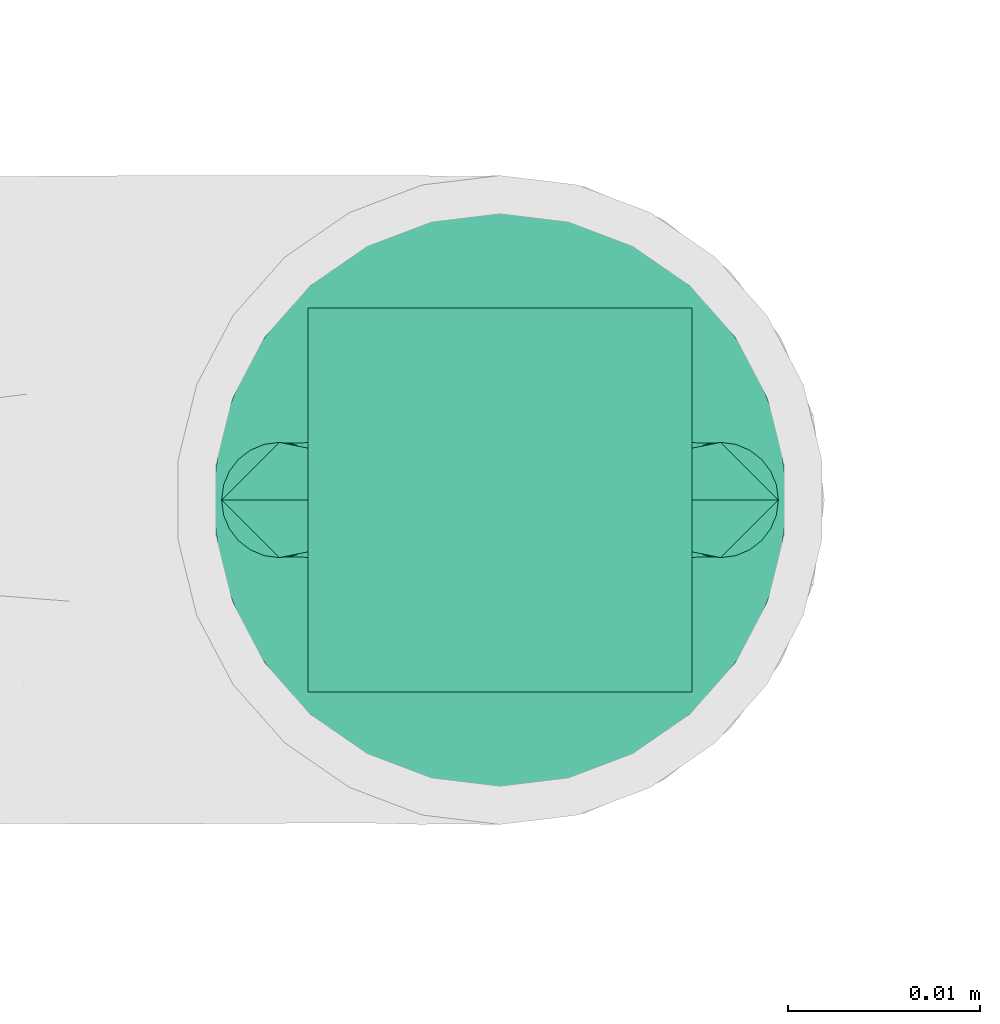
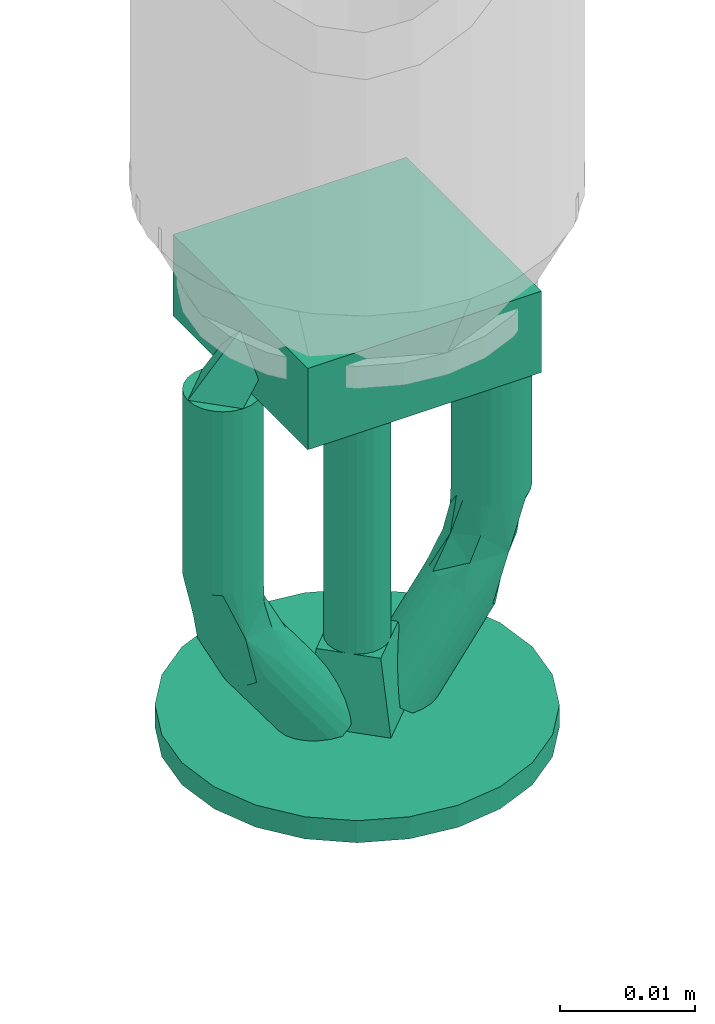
# One storey, part 10 of 17: 1 flow terminal.
"""IFC2X3 building model written with IfcOpenShell, lengths in millimetres."""

from ifc_helpers import new_model, entity, si_unit, converted_unit, derived_unit, direction, frame, origin_with_axes, place, context, subcontext, project, spatial, open_shell, surface_model, source, transform, mapped, type_object, element, save


model = new_model("IFC2X3")

# Units and contexts
model_context = context("Model", 3, precision=0.01, world=frame((0.0, 4.29681676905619e-09, 0.0)), true_north=direction((4.01073788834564e-13, 1.0)))
plan_context = context("Plan", 3, precision=0.01, world=frame((0.0, 4.29681676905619e-09, 0.0)), true_north=direction((4.01073788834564e-13, 1.0)))
body_context = subcontext(model_context, "Body", "Model", "MODEL_VIEW")
ifc_project = project(units=[converted_unit("PLANEANGLEUNIT", "DEGREE", entity("IfcPositiveLengthMeasure", 0.0174532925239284), si_unit("PLANEANGLEUNIT", "RADIAN"), dimensions=[0, 0, 0, 0, 0, 0, 0]), si_unit("AREAUNIT", "SQUARE_METRE"), si_unit("LENGTHUNIT", "METRE", prefix="MILLI"), si_unit("MASSUNIT", "GRAM", prefix="KILO"), si_unit("POWERUNIT", "WATT"), si_unit("PRESSUREUNIT", "PASCAL", prefix="KILO"), si_unit("FORCEUNIT", "NEWTON", prefix="KILO"), si_unit("ELECTRICVOLTAGEUNIT", "VOLT"), si_unit("ELECTRICCURRENTUNIT", "AMPERE"), si_unit("THERMODYNAMICTEMPERATUREUNIT", "DEGREE_CELSIUS"), si_unit("TIMEUNIT", "SECOND"), si_unit("VOLUMEUNIT", "CUBIC_METRE"), derived_unit("LINEARVELOCITYUNIT", [(si_unit("LENGTHUNIT", "METRE"), 1), (si_unit("TIMEUNIT", "SECOND"), -1)]), derived_unit("VOLUMETRICFLOWRATEUNIT", [(si_unit("VOLUMEUNIT", "CUBIC_METRE"), 1), (si_unit("TIMEUNIT", "SECOND"), -1)]), derived_unit("THERMALTRANSMITTANCEUNIT", [(si_unit("POWERUNIT", "WATT"), 1), (si_unit("THERMODYNAMICTEMPERATUREUNIT", "KELVIN"), -1), (si_unit("AREAUNIT", "SQUARE_METRE"), -1)]), derived_unit("SOUNDPRESSUREUNIT", [(si_unit("PRESSUREUNIT", "PASCAL"), 1)])], contexts=[model_context, plan_context])

# Site, building, storey
site_placement = place(None, frame((0.0, -4.29681676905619e-09, 0.0), z_axis=(0.0, 0.0, 1.0), x_axis=(1.0, 0.0, 0.0)))
site = spatial("IfcSite", under=ifc_project, at=site_placement, CompositionType="ELEMENT")
building_placement = place(site_placement, frame((0.0, 4.29681676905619e-09, 0.0), z_axis=(0.0, 0.0, 1.0), x_axis=(1.0, 0.0, 0.0)))
building = spatial("IfcBuilding", under=site, at=building_placement, Name="mc-building", CompositionType="ELEMENT")
storey_placement = place(building_placement, frame((0.0, 0.0, 204000.0), z_axis=(0.0, 0.0, 1.0), x_axis=(1.0, 0.0, 0.0)))
storey = spatial("IfcBuildingStorey", under=building, at=storey_placement, Name="Nivå D", CompositionType="ELEMENT", Elevation=204000.0)

# Flow terminal
fire_suppression_terminal_type = type_object("IfcFireSuppressionTerminalType", Name="BLP-K115-141C-STD", PredefinedType="NOTDEFINED")
shared_shape = source(origin_with_axes(), body_context, "Body", "SurfaceModel", [
    surface_model("IfcShellBasedSurfaceModel", [(10.0, 10.0, 7.36842), (-10.0, 10.0, 7.36842), (-10.0, -10.0, 7.36842), (10.0, -10.0, 7.36842), (10.0, -10.0, 0.0), (-10.0, -10.0, 0.0), (-10.0, 10.0, 0.0), (10.0, 10.0, 0.0), (3.88229, -14.48889, 42.0), (-3.88229, -14.48889, 42.0), (0.0, -15.0, 42.0), (14.48889, -3.88229, 42.0), (7.5, -12.99038, 42.0), (12.99038, -7.5, 42.0), (10.6066, -10.6066, 42.0), (-10.6066, -10.6066, 42.0), (-7.5, -12.99038, 42.0), (-14.48889, -3.88229, 42.0), (-12.99038, -7.5, 42.0), (-12.99038, 7.5, 42.0), (-15.0, 0.0, 42.0), (14.48889, 3.88229, 42.0), (3.88229, 14.48889, 42.0), (12.99038, 7.5, 42.0), (10.6066, 10.6066, 42.0), (7.5, 12.99038, 42.0), (-7.5, 12.99038, 42.0), (-10.6066, 10.6066, 42.0), (-14.48889, 3.88229, 42.0), (0.0, 15.0, 42.0), (-3.88229, 14.48889, 42.0), (15.0, 0.0, 42.0), (10.6066, 10.6066, 40.0), (0.0, 15.0, 40.0), (3.88229, 14.48889, 40.0), (7.5, 12.99038, 40.0), (12.99038, 7.5, 40.0), (14.48889, 3.88229, 40.0), (-15.0, 0.0, 40.0), (-7.5, 12.99038, 40.0), (-12.99038, 7.5, 40.0), (-10.6066, 10.6066, 40.0), (-3.88229, 14.48889, 40.0), (-14.48889, 3.88229, 40.0), (15.0, 0.0, 40.0), (14.48889, -3.88229, 40.0), (-3.88229, -14.48889, 40.0), (3.88229, -14.48889, 40.0), (12.99038, -7.5, 40.0), (7.5, -12.99038, 40.0), (10.6066, -10.6066, 40.0), (-14.48889, -3.88229, 40.0), (-10.6066, -10.6066, 40.0), (-12.99038, -7.5, 40.0), (-7.5, -12.99038, 40.0), (0.0, -15.0, 40.0), (0.0, -2.5, 33.68421), (0.64705, -2.41481, 33.68421), (1.25, -2.16506, 33.68421), (-1.25, -2.16506, 33.68421), (2.16506, -1.25, 33.68421), (1.76777, -1.76777, 33.68421), (-1.25, 2.16506, 33.68421), (-2.16506, -1.25, 33.68421), (-1.76777, -1.76777, 33.68421), (-0.64705, -2.41481, 33.68421), (-2.41481, -0.64705, 33.68421), (-2.5, 0.0, 33.68421), (-2.41481, 0.64705, 33.68421), (2.41481, -0.64705, 33.68421), (1.25, 2.16506, 33.68421), (2.5, 0.0, 33.68421), (2.41481, 0.64705, 33.68421), (1.76777, 1.76777, 33.68421), (2.16506, 1.25, 33.68421), (0.64705, 2.41481, 33.68421), (-1.76777, 1.76777, 33.68421), (-2.16506, 1.25, 33.68421), (0.0, 2.5, 33.68421), (-0.64705, 2.41481, 33.68421), (0.0, 2.5, 7.36842), (0.64705, 2.41481, 7.36842), (1.25, 2.16506, 7.36842), (-1.25, 2.16506, 7.36842), (1.76777, 1.76777, 7.36842), (2.16506, 1.25, 7.36842), (2.41481, 0.64705, 7.36842), (-2.41481, 0.64705, 7.36842), (-1.76777, 1.76777, 7.36842), (-0.64705, 2.41481, 7.36842), (-2.16506, 1.25, 7.36842), (-2.5, 0.0, 7.36842), (2.5, 0.0, 7.36842), (2.41481, -0.64705, 7.36842), (2.16506, -1.25, 7.36842), (-1.25, -2.16506, 7.36842), (1.25, -2.16506, 7.36842), (1.76777, -1.76777, 7.36842), (0.0, -2.5, 7.36842), (0.64705, -2.41481, 7.36842), (-2.16506, -1.25, 7.36842), (-1.76777, -1.76777, 7.36842), (-2.41481, -0.64705, 7.36842), (-0.64705, -2.41481, 7.36842), (0.0, -5.0, 40.0), (5.0, 0.0, 40.0), (-5.0, 0.0, 40.0), (0.0, 5.0, 40.0), (3.5, 0.0, 33.68421), (0.0, -3.5, 33.68421), (0.0, 3.5, 33.68421), (-3.5, 0.0, 33.68421), (13.0, -2.59808, 7.36842), (12.27646, -2.89778, 7.36842), (11.5, -3.0, 7.36842), (10.72354, -2.89778, 7.36842), (14.09808, -1.5, 7.36842), (13.62132, -2.12132, 7.36842), (14.39778, -0.77646, 7.36842), (10.0, -2.59808, 7.36842), (9.37868, -2.12132, 7.36842), (8.60222, -0.77646, 7.36842), (8.90192, -1.5, 7.36842), (8.5, 0.0, 7.36842), (8.60222, 0.77646, 7.36842), (14.5, 0.0, 7.36842), (14.09808, 1.5, 7.36842), (14.39778, 0.77646, 7.36842), (13.0, 2.59808, 7.36842), (13.62132, 2.12132, 7.36842), (12.27646, 2.89778, 7.36842), (8.90192, 1.5, 7.36842), (9.37868, 2.12132, 7.36842), (10.0, 2.59808, 7.36842), (10.72354, 2.89778, 7.36842), (11.5, 3.0, 7.36842), (8.60222, 0.77646, 21.40351), (8.5, 0.0, 21.40351), (8.90192, 1.5, 21.40351), (9.37868, 2.12132, 21.40351), (10.0, 2.59808, 21.40351), (10.72354, 2.89778, 21.40351), (11.5, 3.0, 21.40351), (13.0, 2.59808, 21.40351), (12.27646, 2.89778, 21.40351), (13.62132, 2.12132, 21.40351), (14.09808, 1.5, 21.40351), (14.39778, 0.77646, 21.40351), (14.5, 0.0, 21.40351), (14.39778, -0.77646, 21.40351), (14.09808, -1.5, 21.40351), (13.62132, -2.12132, 21.40351), (13.0, -2.59808, 21.40351), (12.27646, -2.89778, 21.40351), (11.5, -3.0, 21.40351), (10.0, -2.59808, 21.40351), (10.72354, -2.89778, 21.40351), (9.37868, -2.12132, 21.40351), (8.90192, -1.5, 21.40351), (8.60222, -0.77646, 21.40351), (8.60222, 0.77646, 24.01797), (8.5, 0.0, 24.01797), (8.90192, 1.5, 24.01797), (9.37868, 2.12132, 24.01797), (10.0, 2.59808, 24.01797), (10.72354, 2.89778, 24.01797), (11.5, 3.0, 24.01797), (13.0, 2.59808, 24.01797), (12.27646, 2.89778, 24.01797), (13.62132, 2.12132, 24.01797), (14.09808, 1.5, 24.01797), (14.39778, 0.77646, 24.01797), (14.5, 0.0, 24.01797), (14.39778, -0.77646, 24.01797), (14.09808, -1.5, 24.01797), (13.62132, -2.12132, 24.01797), (13.0, -2.59808, 24.01797), (12.27646, -2.89778, 24.01797), (11.5, -3.0, 24.01797), (10.0, -2.59808, 24.01797), (10.72354, -2.89778, 24.01797), (9.37868, -2.12132, 24.01797), (8.90192, -1.5, 24.01797), (8.60222, -0.77646, 24.01797), (14.03116, 0.0, 26.95469), (8.89443, 3.0, 31.97044), (11.26864, 2.96638, 28.30794), (8.26852, 2.89778, 31.51096), (13.68288, 0.0, 29.13626), (9.23197, 2.26965, 26.65145), (7.98113, 0.0, 27.26812), (8.39468, 2.17743, 28.77318), (6.47609, 0.0, 30.19515), (6.55849, 0.77646, 30.25565), (6.80009, 1.5, 30.433), (7.1844, 2.12132, 30.71512), (11.23037, 0.77646, 33.68523), (11.31277, 0.0, 33.74572), (12.67267, 0.0, 31.10095), (7.68526, 2.59808, 31.0828), (9.52034, 2.89778, 32.42991), (10.1036, 2.59808, 32.85808), (10.60445, 2.12132, 33.22575), (10.98877, 1.5, 33.50787), (11.26864, -2.96638, 28.30794), (9.20533, -2.17689, 26.29582), (8.63781, -2.27879, 28.50134), (10.1036, -2.59808, 32.85808), (9.52034, -2.89778, 32.42991), (8.89443, -3.0, 31.97044), (10.98877, -1.5, 33.50787), (10.60445, -2.12132, 33.22575), (11.23037, -0.77646, 33.68523), (6.55849, -0.77646, 30.25565), (8.26852, -2.89778, 31.51096), (7.68526, -2.59808, 31.0828), (7.1844, -2.12132, 30.71512), (6.80009, -1.5, 30.433), (3.0, -3.0, 40.0), (3.62591, -2.89778, 40.45948), (4.20917, -2.59808, 40.88764), (5.09434, -1.5, 41.53744), (1.28997, -2.12132, 38.74469), (4.71003, -2.12132, 41.25532), (1.79083, 2.59808, 39.11236), (0.90566, -1.5, 38.46256), (1.79083, -2.59808, 39.11236), (2.37409, -2.89778, 39.54052), (0.58166, 0.0, 38.22472), (0.66406, -0.77646, 38.28521), (1.28997, 2.12132, 38.74469), (5.33594, -0.77646, 41.71479), (4.71003, 2.12132, 41.25532), (5.33594, 0.77646, 41.71479), (5.09434, 1.5, 41.53744), (4.20917, 2.59808, 40.88764), (3.62591, 2.89778, 40.45948), (3.0, 3.0, 40.0), (0.66406, 0.77646, 38.28521), (0.90566, 1.5, 38.46256), (2.37409, 2.89778, 39.54052), (5.41834, 0.0, 41.77528), (-10.0, -2.59808, 7.36842), (-10.72354, -2.89778, 7.36842), (-11.5, -3.0, 7.36842), (-12.27646, -2.89778, 7.36842), (-8.60222, -0.77646, 7.36842), (-8.90192, -1.5, 7.36842), (-9.37868, -2.12132, 7.36842), (-13.0, -2.59808, 7.36842), (-13.62132, -2.12132, 7.36842), (-14.39778, -0.77646, 7.36842), (-14.09808, -1.5, 7.36842), (-14.5, 0.0, 7.36842), (-10.0, 2.59808, 7.36842), (-8.90192, 1.5, 7.36842), (-8.60222, 0.77646, 7.36842), (-14.39778, 0.77646, 7.36842), (-9.37868, 2.12132, 7.36842), (-10.72354, 2.89778, 7.36842), (-14.09808, 1.5, 7.36842), (-13.62132, 2.12132, 7.36842), (-13.0, 2.59808, 7.36842), (-12.27646, 2.89778, 7.36842), (-11.5, 3.0, 7.36842), (-8.5, 0.0, 7.36842), (-14.39778, 0.77646, 21.40351), (-14.5, 0.0, 21.40351), (-14.09808, 1.5, 21.40351), (-13.62132, 2.12132, 21.40351), (-13.0, 2.59808, 21.40351), (-12.27646, 2.89778, 21.40351), (-11.5, 3.0, 21.40351), (-10.0, 2.59808, 21.40351), (-10.72354, 2.89778, 21.40351), (-9.37868, 2.12132, 21.40351), (-8.90192, 1.5, 21.40351), (-8.60222, 0.77646, 21.40351), (-8.5, 0.0, 21.40351), (-8.60222, -0.77646, 21.40351), (-8.90192, -1.5, 21.40351), (-9.37868, -2.12132, 21.40351), (-10.0, -2.59808, 21.40351), (-10.72354, -2.89778, 21.40351), (-11.5, -3.0, 21.40351), (-13.0, -2.59808, 21.40351), (-12.27646, -2.89778, 21.40351), (-13.62132, -2.12132, 21.40351), (-14.09808, -1.5, 21.40351), (-14.39778, -0.77646, 21.40351), (-14.39778, 0.77646, 24.01797), (-14.5, 0.0, 24.01797), (-14.09808, 1.5, 24.01797), (-13.62132, 2.12132, 24.01797), (-13.0, 2.59808, 24.01797), (-12.27646, 2.89778, 24.01797), (-11.5, 3.0, 24.01797), (-10.0, 2.59808, 24.01797), (-10.72354, 2.89778, 24.01797), (-9.37868, 2.12132, 24.01797), (-8.90192, 1.5, 24.01797), (-8.60222, 0.77646, 24.01797), (-8.5, 0.0, 24.01797), (-8.60222, -0.77646, 24.01797), (-8.90192, -1.5, 24.01797), (-9.37868, -2.12132, 24.01797), (-10.0, -2.59808, 24.01797), (-10.72354, -2.89778, 24.01797), (-11.5, -3.0, 24.01797), (-13.0, -2.59808, 24.01797), (-12.27646, -2.89778, 24.01797), (-13.62132, -2.12132, 24.01797), (-14.09808, -1.5, 24.01797), (-14.39778, -0.77646, 24.01797), (-14.03116, 0.0, 26.95469), (-11.26864, 2.96638, 28.30794), (-9.20533, 2.17689, 26.29582), (-7.98113, 0.0, 27.26812), (-13.68288, 0.0, 29.13626), (-12.67267, 0.0, 31.10095), (-8.63781, 2.27879, 28.50134), (-10.1036, 2.59808, 32.85808), (-9.52034, 2.89778, 32.42991), (-8.89443, 3.0, 31.97044), (-10.98877, 1.5, 33.50787), (-10.60445, 2.12132, 33.22575), (-11.23037, 0.77646, 33.68523), (-11.31277, 0.0, 33.74572), (-6.55849, 0.77646, 30.25565), (-6.47609, 0.0, 30.19515), (-8.26852, 2.89778, 31.51096), (-7.68526, 2.59808, 31.0828), (-7.1844, 2.12132, 30.71512), (-6.80009, 1.5, 30.433), (-8.89443, -3.0, 31.97044), (-11.26864, -2.96638, 28.30794), (-8.26852, -2.89778, 31.51096), (-9.23197, -2.26965, 26.65145), (-8.39468, -2.17743, 28.77318), (-6.55849, -0.77646, 30.25565), (-6.80009, -1.5, 30.433), (-7.1844, -2.12132, 30.71512), (-11.23037, -0.77646, 33.68523), (-7.68526, -2.59808, 31.0828), (-9.52034, -2.89778, 32.42991), (-10.1036, -2.59808, 32.85808), (-10.60445, -2.12132, 33.22575), (-10.98877, -1.5, 33.50787), (-3.62591, -2.89778, 40.45948), (-3.0, -3.0, 40.0), (-2.37409, -2.89778, 39.54052), (-1.79083, -2.59808, 39.11236), (-1.28997, -2.12132, 38.74469), (-0.90566, -1.5, 38.46256), (-0.66406, -0.77646, 38.28521), (-4.71003, -2.12132, 41.25532), (-4.20917, -2.59808, 40.88764), (-5.09434, -1.5, 41.53744), (-5.41834, 0.0, 41.77528), (-5.33594, -0.77646, 41.71479), (-4.20917, 2.59808, 40.88764), (-5.33594, 0.77646, 41.71479), (-0.58166, 0.0, 38.22472), (-0.66406, 0.77646, 38.28521), (-0.90566, 1.5, 38.46256), (-1.28997, 2.12132, 38.74469), (-1.79083, 2.59808, 39.11236), (-2.37409, 2.89778, 39.54052), (-3.0, 3.0, 40.0), (-4.71003, 2.12132, 41.25532), (-5.09434, 1.5, 41.53744), (-3.62591, 2.89778, 40.45948), (-6.5, 2.0, 1.0), (-4.5, 0.0, 1.0), (-6.5, -2.0, 1.0), (-8.5, 0.0, 1.0), (-7.5, 1.0, 1.0), (-13.0, 1.5, 7.36842), (-10.16667, 1.66667, 7.36842), (-5.5, 1.0, 1.0), (-5.5, -1.0, 1.0), (-10.0, -1.5, 7.36842), (-12.83333, -1.66667, 7.36842), (-7.5, -1.0, 1.0), (4.5, 0.0, 1.0), (6.5, 2.0, 1.0), (8.5, 0.0, 1.0), (6.5, -2.0, 1.0), (5.5, -1.0, 1.0), (12.83333, -1.66667, 7.36842), (10.16667, -1.66667, 7.36842), (7.5, -1.0, 1.0), (7.5, 1.0, 1.0), (10.16667, 1.66667, 7.36842), (12.83333, 1.66667, 7.36842), (5.5, 1.0, 1.0)], [open_shell([[[0, 1, 2]], [[2, 3, 0]], [[4, 5, 6]], [[6, 7, 4]], [[2, 1, 6]], [[6, 5, 2]], [[3, 2, 5]], [[5, 4, 3]], [[0, 3, 4]], [[4, 7, 0]], [[1, 0, 7]], [[7, 6, 1]], [[8, 9, 10]], [[11, 8, 12]], [[13, 11, 12]], [[13, 12, 14]], [[9, 8, 11]], [[9, 15, 16]], [[15, 9, 17]], [[15, 17, 18]], [[9, 11, 17]], [[17, 19, 20]], [[17, 11, 19]], [[19, 11, 21]], [[22, 21, 23]], [[24, 25, 22]], [[24, 22, 23]], [[19, 21, 22]], [[19, 26, 27]], [[28, 20, 19]], [[26, 29, 30]], [[29, 26, 19]], [[22, 29, 19]], [[11, 31, 21]], [[32, 33, 34]], [[32, 34, 35]], [[32, 36, 37]], [[33, 32, 38]], [[38, 32, 37]], [[39, 40, 41]], [[39, 42, 33]], [[40, 38, 43]], [[39, 33, 40]], [[33, 38, 40]], [[37, 44, 38]], [[45, 46, 44]], [[47, 45, 48]], [[49, 47, 48]], [[49, 48, 50]], [[46, 45, 47]], [[51, 52, 53]], [[52, 51, 46]], [[52, 46, 54]], [[51, 44, 46]], [[47, 55, 46]], [[44, 51, 38]], [[51, 17, 38]], [[53, 18, 51]], [[16, 52, 54]], [[53, 52, 15]], [[9, 54, 46]], [[51, 18, 17]], [[17, 20, 38]], [[9, 16, 54]], [[15, 52, 16]], [[15, 18, 53]], [[10, 9, 46]], [[46, 55, 10]], [[47, 8, 55]], [[49, 12, 47]], [[13, 50, 48]], [[49, 50, 14]], [[11, 48, 45]], [[49, 14, 12]], [[12, 8, 47]], [[31, 11, 45]], [[13, 48, 11]], [[13, 14, 50]], [[44, 31, 45]], [[55, 8, 10]], [[37, 21, 44]], [[36, 23, 37]], [[25, 32, 35]], [[36, 32, 24]], [[22, 35, 34]], [[37, 23, 21]], [[21, 31, 44]], [[22, 25, 35]], [[24, 32, 25]], [[24, 23, 36]], [[29, 22, 34]], [[34, 33, 29]], [[42, 30, 33]], [[39, 26, 42]], [[19, 41, 40]], [[39, 41, 27]], [[28, 40, 43]], [[39, 27, 26]], [[26, 30, 42]], [[20, 28, 43]], [[19, 40, 28]], [[19, 27, 41]], [[38, 20, 43]], [[33, 30, 29]], [[56, 57, 58]], [[59, 56, 58]], [[58, 60, 59]], [[60, 58, 61]], [[60, 62, 59]], [[59, 63, 64]], [[59, 65, 56]], [[59, 66, 63]], [[66, 59, 67]], [[59, 68, 67]], [[62, 60, 69]], [[70, 71, 72]], [[73, 72, 74]], [[62, 69, 70]], [[70, 72, 73]], [[62, 70, 75]], [[68, 76, 77]], [[76, 68, 62]], [[62, 78, 79]], [[68, 59, 62]], [[75, 78, 62]], [[70, 69, 71]], [[80, 81, 82]], [[83, 80, 82]], [[84, 85, 86]], [[83, 82, 84]], [[83, 84, 86]], [[83, 87, 88]], [[83, 89, 80]], [[88, 87, 90]], [[87, 83, 91]], [[86, 91, 83]], [[86, 92, 91]], [[92, 93, 94]], [[95, 92, 94]], [[95, 94, 96]], [[96, 94, 97]], [[98, 96, 99]], [[100, 95, 101]], [[95, 100, 102]], [[95, 98, 103]], [[102, 91, 95]], [[96, 98, 95]], [[95, 91, 92]], [[102, 66, 91]], [[100, 63, 102]], [[59, 101, 95]], [[100, 101, 64]], [[65, 95, 103]], [[102, 63, 66]], [[66, 67, 91]], [[65, 59, 95]], [[64, 101, 59]], [[64, 63, 100]], [[56, 65, 103]], [[103, 98, 56]], [[99, 57, 98]], [[96, 58, 99]], [[60, 97, 94]], [[96, 97, 61]], [[69, 94, 93]], [[96, 61, 58]], [[58, 57, 99]], [[71, 69, 93]], [[60, 94, 69]], [[60, 61, 97]], [[92, 71, 93]], [[98, 57, 56]], [[86, 72, 92]], [[85, 74, 86]], [[70, 84, 82]], [[85, 84, 73]], [[75, 82, 81]], [[86, 74, 72]], [[72, 71, 92]], [[75, 70, 82]], [[73, 84, 70]], [[73, 74, 85]], [[78, 75, 81]], [[81, 80, 78]], [[89, 79, 80]], [[83, 62, 89]], [[77, 88, 90]], [[83, 88, 76]], [[68, 90, 87]], [[83, 76, 62]], [[62, 79, 89]], [[67, 68, 87]], [[77, 90, 68]], [[77, 76, 88]], [[91, 67, 87]], [[80, 79, 78]], [[104, 105, 106]], [[107, 106, 105]], [[108, 109, 110]], [[111, 110, 109]], [[106, 111, 104]], [[104, 111, 109]], [[109, 108, 105]], [[109, 105, 104]], [[105, 108, 107]], [[107, 108, 110]], [[110, 111, 106]], [[110, 106, 107]], [[112, 113, 114]], [[112, 114, 115]], [[116, 112, 115]], [[117, 112, 116]], [[118, 116, 119]], [[120, 121, 119]], [[116, 115, 119]], [[122, 121, 120]], [[121, 118, 119]], [[121, 123, 124]], [[125, 118, 121]], [[126, 127, 125]], [[126, 125, 124]], [[124, 128, 126]], [[129, 126, 128]], [[128, 124, 130]], [[131, 132, 124]], [[133, 124, 132]], [[134, 135, 133]], [[124, 133, 135]], [[135, 130, 124]], [[121, 124, 125]], [[136, 123, 137]], [[138, 124, 136]], [[132, 139, 140]], [[138, 139, 131]], [[133, 140, 141]], [[138, 131, 124]], [[124, 123, 136]], [[134, 142, 135]], [[134, 133, 141]], [[132, 140, 133]], [[132, 131, 139]], [[142, 134, 141]], [[143, 130, 144]], [[145, 128, 143]], [[126, 146, 147]], [[145, 146, 129]], [[127, 147, 148]], [[143, 128, 130]], [[130, 135, 144]], [[127, 126, 147]], [[129, 146, 126]], [[129, 128, 145]], [[125, 127, 148]], [[144, 135, 142]], [[149, 125, 148]], [[150, 118, 149]], [[117, 151, 152]], [[150, 151, 116]], [[112, 152, 153]], [[150, 116, 118]], [[118, 125, 149]], [[113, 154, 114]], [[113, 112, 153]], [[117, 152, 112]], [[117, 116, 151]], [[154, 113, 153]], [[155, 115, 156]], [[157, 119, 155]], [[122, 158, 159]], [[157, 158, 120]], [[121, 159, 137]], [[155, 119, 115]], [[115, 114, 156]], [[121, 122, 159]], [[120, 158, 122]], [[120, 119, 157]], [[123, 121, 137]], [[156, 114, 154]], [[160, 137, 161]], [[162, 136, 160]], [[139, 163, 164]], [[162, 163, 138]], [[140, 164, 165]], [[162, 138, 136]], [[136, 137, 160]], [[141, 166, 142]], [[141, 140, 165]], [[139, 164, 140]], [[139, 138, 163]], [[166, 141, 165]], [[167, 144, 168]], [[169, 143, 167]], [[146, 170, 171]], [[169, 170, 145]], [[147, 171, 172]], [[167, 143, 144]], [[144, 142, 168]], [[147, 146, 171]], [[145, 170, 146]], [[145, 143, 169]], [[148, 147, 172]], [[168, 142, 166]], [[173, 148, 172]], [[174, 149, 173]], [[151, 175, 176]], [[174, 175, 150]], [[152, 176, 177]], [[174, 150, 149]], [[149, 148, 173]], [[153, 178, 154]], [[153, 152, 177]], [[151, 176, 152]], [[151, 150, 175]], [[178, 153, 177]], [[179, 156, 180]], [[181, 155, 179]], [[158, 182, 183]], [[181, 182, 157]], [[159, 183, 161]], [[179, 155, 156]], [[156, 154, 180]], [[159, 158, 183]], [[157, 182, 158]], [[157, 155, 181]], [[137, 159, 161]], [[180, 154, 178]], [[170, 184, 171]], [[185, 186, 187]], [[188, 184, 186]], [[165, 186, 166]], [[189, 160, 190]], [[163, 162, 189]], [[190, 191, 189]], [[160, 189, 162]], [[189, 186, 165]], [[164, 163, 189]], [[184, 172, 171]], [[170, 169, 184]], [[184, 167, 186]], [[184, 169, 167]], [[168, 186, 167]], [[166, 186, 168]], [[160, 161, 190]], [[192, 193, 191]], [[193, 194, 191]], [[195, 191, 194]], [[191, 190, 192]], [[191, 187, 186]], [[196, 197, 198]], [[191, 199, 187]], [[200, 186, 185]], [[189, 165, 164]], [[191, 195, 199]], [[201, 202, 198]], [[200, 201, 186]], [[198, 203, 196]], [[198, 188, 186]], [[198, 202, 203]], [[201, 198, 186]], [[189, 191, 186]], [[174, 184, 175]], [[176, 175, 184]], [[204, 176, 184]], [[178, 177, 204]], [[204, 177, 176]], [[173, 184, 174]], [[205, 190, 161]], [[188, 198, 204]], [[205, 204, 206]], [[205, 179, 180]], [[205, 181, 179]], [[182, 205, 183]], [[161, 183, 205]], [[181, 205, 182]], [[180, 204, 205]], [[173, 172, 184]], [[188, 204, 184]], [[204, 198, 207]], [[207, 208, 204]], [[190, 205, 206]], [[208, 209, 204]], [[198, 210, 211]], [[198, 211, 207]], [[212, 198, 197]], [[213, 192, 190]], [[213, 190, 206]], [[210, 198, 212]], [[214, 204, 209]], [[214, 215, 206]], [[206, 216, 217]], [[206, 204, 214]], [[216, 206, 215]], [[213, 206, 217]], [[178, 204, 180]], [[218, 219, 220]], [[218, 220, 221]], [[218, 221, 222]], [[221, 220, 223]], [[221, 224, 225]], [[218, 226, 227]], [[218, 222, 226]], [[225, 228, 229]], [[222, 221, 225]], [[225, 230, 228]], [[221, 231, 232]], [[231, 233, 232]], [[232, 233, 234]], [[232, 235, 236]], [[232, 224, 221]], [[237, 232, 236]], [[238, 230, 239]], [[238, 228, 230]], [[232, 240, 224]], [[225, 224, 230]], [[237, 240, 232]], [[241, 233, 231]], [[238, 192, 228]], [[239, 193, 238]], [[195, 230, 224]], [[239, 230, 194]], [[199, 224, 240]], [[239, 194, 193]], [[193, 192, 238]], [[187, 237, 185]], [[187, 199, 240]], [[195, 224, 199]], [[195, 194, 230]], [[237, 187, 240]], [[235, 200, 236]], [[232, 201, 235]], [[203, 234, 233]], [[232, 234, 202]], [[196, 233, 241]], [[235, 201, 200]], [[200, 185, 236]], [[196, 203, 233]], [[202, 234, 203]], [[202, 201, 232]], [[197, 196, 241]], [[236, 185, 237]], [[231, 197, 241]], [[221, 212, 231]], [[211, 223, 220]], [[221, 223, 210]], [[207, 220, 219]], [[221, 210, 212]], [[212, 197, 231]], [[208, 218, 209]], [[208, 207, 219]], [[211, 220, 207]], [[211, 210, 223]], [[218, 208, 219]], [[226, 214, 227]], [[222, 215, 226]], [[217, 225, 229]], [[222, 225, 216]], [[213, 229, 228]], [[226, 215, 214]], [[214, 209, 227]], [[213, 217, 229]], [[216, 225, 217]], [[216, 215, 222]], [[192, 213, 228]], [[227, 209, 218]], [[242, 243, 244]], [[242, 244, 245]], [[246, 247, 248]], [[242, 246, 248]], [[246, 242, 249]], [[250, 251, 249]], [[242, 245, 249]], [[252, 251, 250]], [[249, 251, 246]], [[253, 254, 251]], [[254, 246, 251]], [[246, 255, 256]], [[246, 254, 255]], [[257, 254, 253]], [[258, 255, 254]], [[259, 254, 257]], [[260, 261, 257]], [[262, 257, 261]], [[263, 264, 262]], [[257, 262, 264]], [[264, 259, 257]], [[256, 265, 246]], [[266, 253, 267]], [[268, 257, 266]], [[261, 269, 270]], [[268, 269, 260]], [[262, 270, 271]], [[268, 260, 257]], [[257, 253, 266]], [[263, 272, 264]], [[263, 262, 271]], [[261, 270, 262]], [[261, 260, 269]], [[272, 263, 271]], [[273, 259, 274]], [[275, 254, 273]], [[255, 276, 277]], [[275, 276, 258]], [[256, 277, 278]], [[273, 254, 259]], [[259, 264, 274]], [[256, 255, 277]], [[258, 276, 255]], [[258, 254, 275]], [[265, 256, 278]], [[274, 264, 272]], [[279, 265, 278]], [[280, 246, 279]], [[248, 281, 282]], [[280, 281, 247]], [[242, 282, 283]], [[280, 247, 246]], [[246, 265, 279]], [[243, 284, 244]], [[243, 242, 283]], [[248, 282, 242]], [[248, 247, 281]], [[284, 243, 283]], [[285, 245, 286]], [[287, 249, 285]], [[252, 288, 289]], [[287, 288, 250]], [[251, 289, 267]], [[285, 249, 245]], [[245, 244, 286]], [[251, 252, 289]], [[250, 288, 252]], [[250, 249, 287]], [[253, 251, 267]], [[286, 244, 284]], [[290, 267, 291]], [[292, 266, 290]], [[269, 293, 294]], [[292, 293, 268]], [[270, 294, 295]], [[292, 268, 266]], [[266, 267, 290]], [[271, 296, 272]], [[271, 270, 295]], [[269, 294, 270]], [[269, 268, 293]], [[296, 271, 295]], [[297, 274, 298]], [[299, 273, 297]], [[276, 300, 301]], [[299, 300, 275]], [[277, 301, 302]], [[297, 273, 274]], [[274, 272, 298]], [[277, 276, 301]], [[275, 300, 276]], [[275, 273, 299]], [[278, 277, 302]], [[298, 272, 296]], [[303, 278, 302]], [[304, 279, 303]], [[281, 305, 306]], [[304, 305, 280]], [[282, 306, 307]], [[304, 280, 279]], [[279, 278, 303]], [[283, 308, 284]], [[283, 282, 307]], [[281, 306, 282]], [[281, 280, 305]], [[308, 283, 307]], [[309, 286, 310]], [[311, 285, 309]], [[288, 312, 313]], [[311, 312, 287]], [[289, 313, 291]], [[309, 285, 286]], [[286, 284, 310]], [[289, 288, 313]], [[287, 312, 288]], [[287, 285, 311]], [[267, 289, 291]], [[310, 284, 308]], [[292, 314, 293]], [[294, 293, 314]], [[315, 294, 314]], [[296, 295, 315]], [[315, 295, 294]], [[290, 314, 292]], [[316, 317, 302]], [[318, 319, 315]], [[316, 315, 320]], [[316, 297, 298]], [[316, 299, 297]], [[300, 316, 301]], [[302, 301, 316]], [[299, 316, 300]], [[298, 315, 316]], [[290, 291, 314]], [[318, 315, 314]], [[315, 319, 321]], [[321, 322, 315]], [[317, 316, 320]], [[322, 323, 315]], [[319, 324, 325]], [[319, 325, 321]], [[326, 319, 327]], [[328, 329, 317]], [[328, 317, 320]], [[324, 319, 326]], [[330, 315, 323]], [[330, 331, 320]], [[320, 332, 333]], [[320, 315, 330]], [[332, 320, 331]], [[328, 320, 333]], [[296, 315, 298]], [[312, 314, 313]], [[334, 335, 336]], [[318, 314, 335]], [[307, 335, 308]], [[337, 303, 317]], [[305, 304, 337]], [[317, 338, 337]], [[303, 337, 304]], [[337, 335, 307]], [[306, 305, 337]], [[314, 291, 313]], [[312, 311, 314]], [[314, 309, 335]], [[314, 311, 309]], [[310, 335, 309]], [[308, 335, 310]], [[303, 302, 317]], [[329, 339, 338]], [[339, 340, 338]], [[341, 338, 340]], [[338, 317, 329]], [[338, 336, 335]], [[342, 327, 319]], [[338, 343, 336]], [[344, 335, 334]], [[337, 307, 306]], [[338, 341, 343]], [[345, 346, 319]], [[344, 345, 335]], [[319, 347, 342]], [[319, 318, 335]], [[319, 346, 347]], [[345, 319, 335]], [[337, 338, 335]], [[348, 349, 350]], [[351, 348, 350]], [[352, 353, 354]], [[352, 354, 351]], [[348, 351, 354]], [[348, 355, 356]], [[355, 348, 357]], [[357, 358, 359]], [[360, 357, 348]], [[357, 361, 358]], [[360, 348, 354]], [[362, 363, 364]], [[364, 360, 354]], [[360, 365, 366]], [[364, 365, 360]], [[366, 367, 368]], [[361, 369, 370]], [[369, 361, 360]], [[360, 368, 371]], [[361, 357, 360]], [[366, 368, 360]], [[364, 354, 362]], [[361, 327, 358]], [[370, 326, 361]], [[325, 369, 360]], [[370, 369, 324]], [[321, 360, 371]], [[370, 324, 326]], [[326, 327, 361]], [[322, 368, 323]], [[322, 321, 371]], [[325, 360, 321]], [[325, 324, 369]], [[368, 322, 371]], [[366, 330, 367]], [[365, 331, 366]], [[333, 364, 363]], [[365, 364, 332]], [[328, 363, 362]], [[366, 331, 330]], [[330, 323, 367]], [[328, 333, 363]], [[332, 364, 333]], [[332, 331, 365]], [[329, 328, 362]], [[367, 323, 368]], [[354, 329, 362]], [[353, 339, 354]], [[341, 352, 351]], [[353, 352, 340]], [[343, 351, 350]], [[353, 340, 339]], [[339, 329, 354]], [[336, 349, 334]], [[336, 343, 350]], [[341, 351, 343]], [[341, 340, 352]], [[349, 336, 350]], [[356, 344, 348]], [[355, 345, 356]], [[347, 357, 359]], [[355, 357, 346]], [[342, 359, 358]], [[356, 345, 344]], [[344, 334, 348]], [[347, 359, 342]], [[346, 357, 347]], [[346, 345, 355]], [[358, 327, 342]], [[348, 334, 349]], [[372, 373, 374]], [[374, 375, 372]], [[265, 264, 253]], [[253, 244, 265]], [[264, 372, 376]], [[377, 375, 253]], [[375, 377, 376]], [[264, 378, 379]], [[379, 372, 264]], [[264, 376, 377]], [[378, 373, 379]], [[378, 265, 373]], [[244, 374, 380]], [[381, 373, 265]], [[373, 381, 380]], [[244, 382, 383]], [[383, 374, 244]], [[244, 380, 381]], [[382, 375, 383]], [[382, 253, 375]], [[135, 123, 114]], [[114, 125, 135]], [[384, 385, 386]], [[386, 387, 384]], [[388, 387, 114]], [[386, 125, 389]], [[114, 390, 388]], [[390, 123, 384]], [[391, 114, 387]], [[114, 391, 389]], [[391, 386, 389]], [[390, 384, 388]], [[392, 385, 135]], [[384, 123, 393]], [[135, 394, 392]], [[394, 125, 386]], [[395, 135, 385]], [[135, 395, 393]], [[395, 384, 393]], [[394, 386, 392]]])]),
])
flow_terminal_placement = place(storey_placement, frame((598404.25829, 402317.53152, 2400.0), z_axis=(0.0, 0.0, -1.0), x_axis=(1.0, 0.0, 0.0)))
element("IfcFlowTerminal", 1, at=flow_terminal_placement, inside=storey, type_object=fire_suppression_terminal_type, Name="BLP-K115-141C-STD", context=body_context, shape_type="MappedRepresentation", body=[
    mapped(shared_shape, transform((0.0, 0.0, 0.0), scale=1.0)),
])

save(model, "model.ifc")
